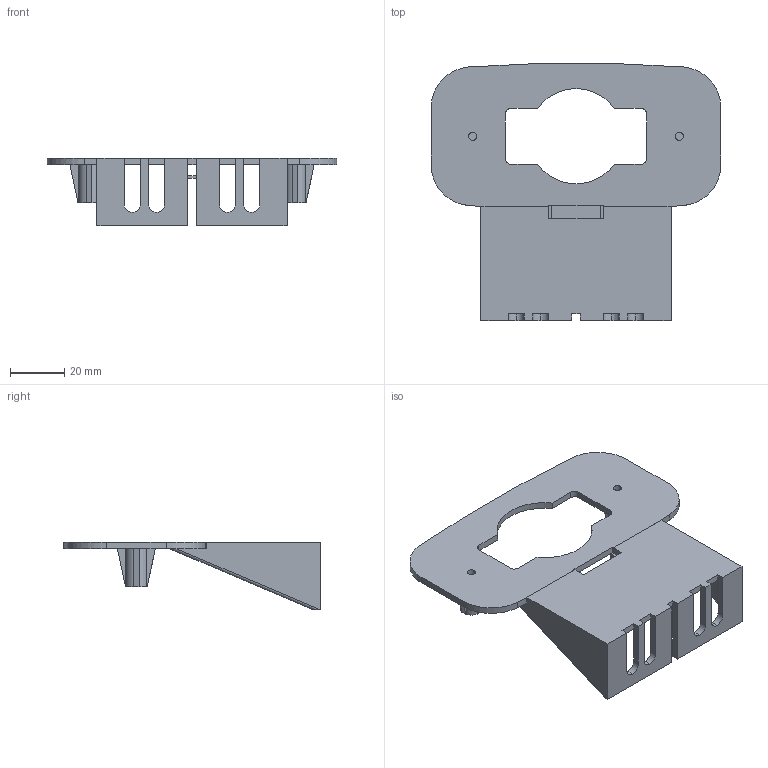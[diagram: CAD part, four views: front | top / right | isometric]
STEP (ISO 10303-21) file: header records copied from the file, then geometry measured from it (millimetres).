
FILE_DESCRIPTION (( 'STEP AP214' ), '1' );
FILE_NAME ('support feu stop final.STEP', '2025-09-24T11:31:33', ( '' ), ( '' ), 'SwSTEP 2.0', 'SolidWorks 2024', '' );
FILE_SCHEMA (( 'AUTOMOTIVE_DESIGN' ));
Length unit declared in the file: millimetre
Products named in the file (1): support feu stop final
Bounding box: 106.67 x 94.66 x 25 mm (x, y, z)
Volume: 23685.1 mm3; surface area: 21799.8 mm2
Topology: 2 solids, 2 shells, 125 faces, 364 edges, 238 vertices
Faces by surface type: plane 80, cylinder 40, bspline 5
Entity records: 4165 total; most frequent: CARTESIAN_POINT 835, ORIENTED_EDGE 728, DIRECTION 650, EDGE_CURVE 364, LINE 272, VECTOR 272, VERTEX_POINT 238, AXIS2_PLACEMENT_3D 189
